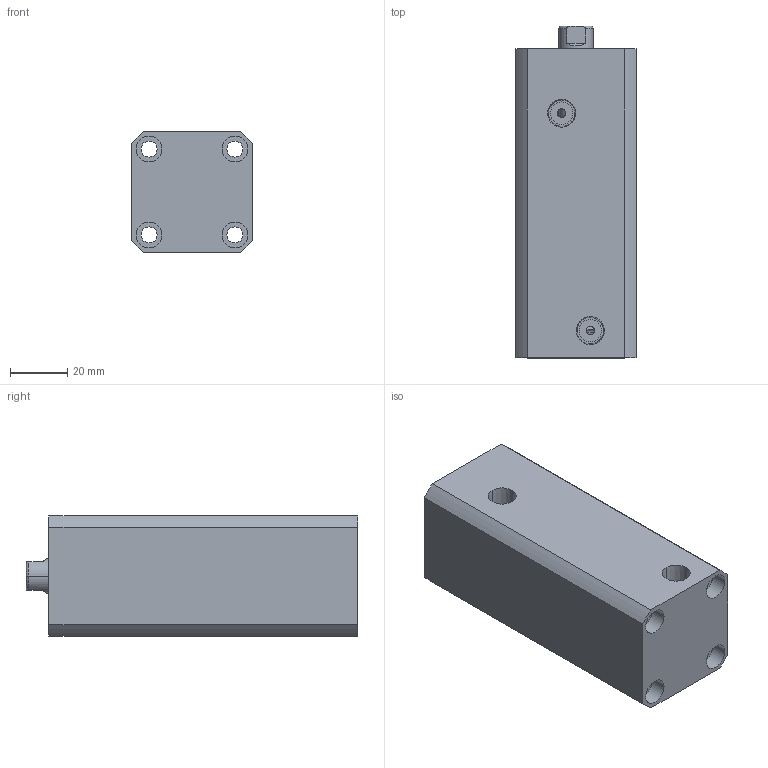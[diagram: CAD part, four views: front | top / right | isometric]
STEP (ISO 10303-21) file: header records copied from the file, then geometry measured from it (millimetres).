
FILE_DESCRIPTION (( 'STEP AP214' ), '1' );
FILE_NAME ('chtb-sd20x65n_asm.STEP', '2018-04-26T12:15:03', ( 'Windows' ), ( 'Microsoft' ), 'SwSTEP 2.0', 'SolidWorks 2015', '' );
FILE_SCHEMA (( 'AUTOMOTIVE_DESIGN' ));
Length unit declared in the file: millimetre
Products named in the file (4): CHTB-SD20X65NHSG; QG; CHTB-SD20X65NBT; chtb-sd20x65n_asm
Assembly tree (3 placements, depth 2):
  chtb-sd20x65n_asm
    CHTB-SD20X65NBT
    QG
    CHTB-SD20X65NHSG
Bounding box: 42 x 116 x 42 mm (x, y, z)
Volume: 159109.3 mm3; surface area: 46077.6 mm2
Topology: 3 solids, 3 shells, 192 faces, 499 edges, 330 vertices
Faces by surface type: cylinder 102, plane 36, torus 25, bspline 19, cone 10
Entity records: 10524 total; most frequent: CARTESIAN_POINT 5851, ORIENTED_EDGE 986, DIRECTION 903, EDGE_CURVE 493, AXIS2_PLACEMENT_3D 385, VERTEX_POINT 330, EDGE_LOOP 229, CIRCLE 206
